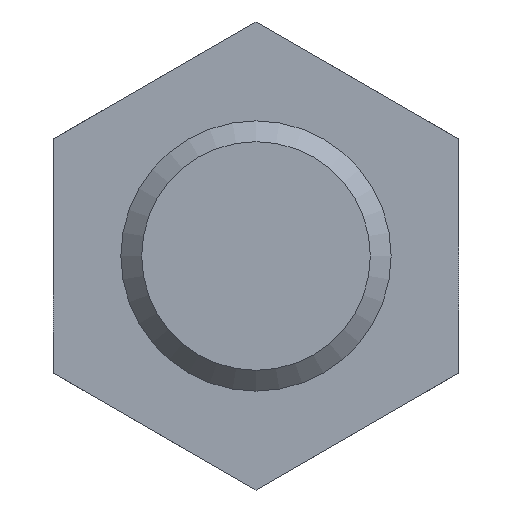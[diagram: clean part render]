
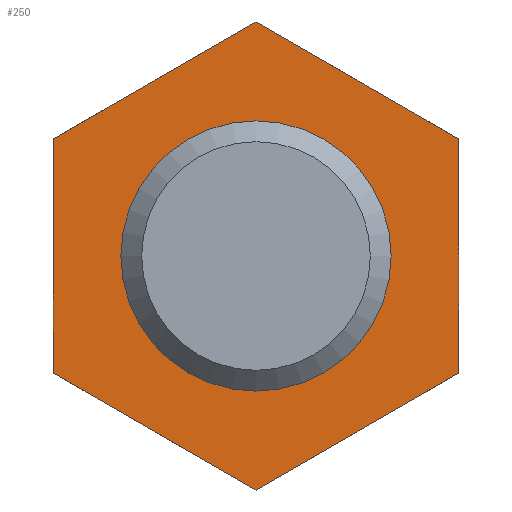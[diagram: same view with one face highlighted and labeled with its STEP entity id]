
A CAD part, front view. The second image highlights one B-rep face of the part: STEP entity #250.
In plain terms, the highlighted planar face has unit normal (0, -1, 0).
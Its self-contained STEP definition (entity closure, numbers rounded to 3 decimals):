
#14=LINE($,#421,#26);
#17=LINE($,#426,#29);
#19=LINE($,#430,#31);
#21=LINE($,#435,#33);
#23=LINE($,#438,#35);
#24=LINE($,#440,#36);
#26=VECTOR($,#322,13.856);
#29=VECTOR($,#327,13.856);
#31=VECTOR($,#331,13.856);
#33=VECTOR($,#335,13.856);
#35=VECTOR($,#339,13.856);
#36=VECTOR($,#342,13.856);
#56=PLANE($,#279);
#61=FACE_BOUND($,#96,.T.);
#62=FACE_BOUND($,#97,.T.);
#96=EDGE_LOOP($,(#215));
#97=EDGE_LOOP($,(#216,#217,#218,#219,#220,#221));
#101=CIRCLE($,#259,8.);
#110=VERTEX_POINT($,#354);
#123=VERTEX_POINT($,#418);
#124=VERTEX_POINT($,#420);
#125=VERTEX_POINT($,#424);
#126=VERTEX_POINT($,#428);
#127=VERTEX_POINT($,#432);
#128=VERTEX_POINT($,#434);
#131=EDGE_CURVE($,#110,#110,#101,.T.);
#151=EDGE_CURVE($,#124,#123,#14,.T.);
#154=EDGE_CURVE($,#123,#125,#17,.T.);
#156=EDGE_CURVE($,#125,#126,#19,.T.);
#158=EDGE_CURVE($,#128,#127,#21,.T.);
#160=EDGE_CURVE($,#127,#124,#23,.T.);
#161=EDGE_CURVE($,#126,#128,#24,.T.);
#215=ORIENTED_EDGE($,*,*,#131,.T.);
#216=ORIENTED_EDGE($,*,*,#161,.T.);
#217=ORIENTED_EDGE($,*,*,#158,.T.);
#218=ORIENTED_EDGE($,*,*,#160,.T.);
#219=ORIENTED_EDGE($,*,*,#151,.T.);
#220=ORIENTED_EDGE($,*,*,#154,.T.);
#221=ORIENTED_EDGE($,*,*,#156,.T.);
#250=ADVANCED_FACE($,(#61,#62),#56,.F.);
#259=AXIS2_PLACEMENT_3D($,#355,#291,#292);
#279=AXIS2_PLACEMENT_3D($,#441,#343,#344);
#291=DIRECTION('center_axis',(0.,1.,0.));
#292=DIRECTION('ref_axis',(-1.,0.,0.));
#322=DIRECTION($,(-0.866,0.,0.5));
#327=DIRECTION($,(-0.866,0.,-0.5));
#331=DIRECTION($,(0.,0.,-1.));
#335=DIRECTION($,(0.866,0.,0.5));
#339=DIRECTION($,(0.,0.,1.));
#342=DIRECTION($,(0.866,0.,-0.5));
#343=DIRECTION('center_axis',(0.,1.,0.));
#344=DIRECTION('ref_axis',(0.,0.,1.));
#354=CARTESIAN_POINT('',(8.,0.,0.));
#355=CARTESIAN_POINT('Origin',(0.,0.,0.));
#418=CARTESIAN_POINT('',(0.,0.,13.856));
#420=CARTESIAN_POINT('',(12.,0.,6.928));
#421=CARTESIAN_POINT($,(12.,0.,6.928));
#424=CARTESIAN_POINT('',(-12.,0.,6.928));
#426=CARTESIAN_POINT($,(0.,0.,13.856));
#428=CARTESIAN_POINT('',(-12.,0.,-6.928));
#430=CARTESIAN_POINT($,(-12.,0.,6.928));
#432=CARTESIAN_POINT('',(12.,0.,-6.928));
#434=CARTESIAN_POINT('',(0.,0.,-13.856));
#435=CARTESIAN_POINT($,(0.,0.,-13.856));
#438=CARTESIAN_POINT($,(12.,0.,-6.928));
#440=CARTESIAN_POINT($,(-12.,0.,-6.928));
#441=CARTESIAN_POINT('Origin',(0.,0.,0.));
